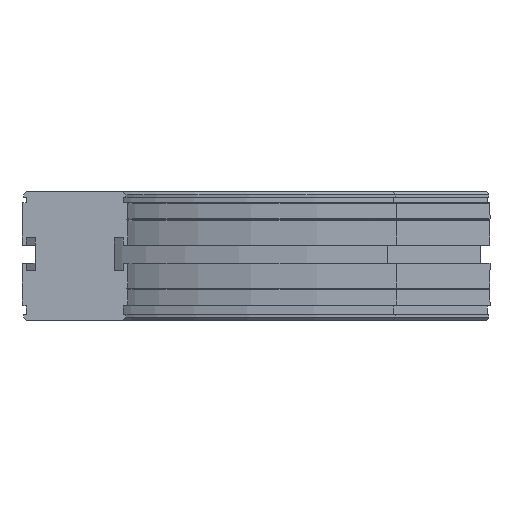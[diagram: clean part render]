
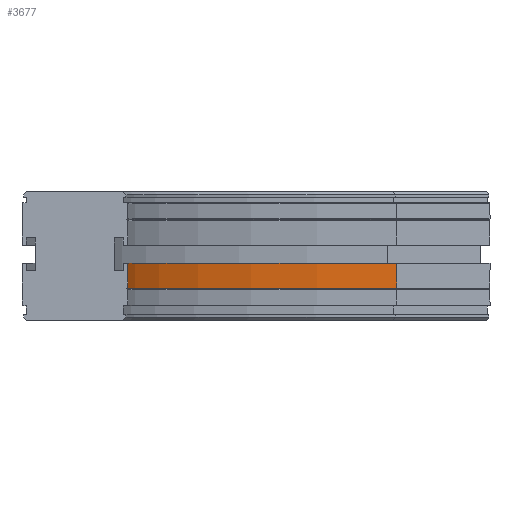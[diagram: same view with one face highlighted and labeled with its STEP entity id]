
A CAD part, left-side view. The second image highlights one B-rep face of the part: STEP entity #3677.
In plain terms, the highlighted cylindrical face has radius 557 mm (diameter 1114 mm), a partial arc.
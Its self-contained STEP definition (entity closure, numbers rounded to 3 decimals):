
#2334=CARTESIAN_POINT('',(473.858,-195.142,-58.5));
#2335=VERTEX_POINT('',#2334);
#2365=CARTESIAN_POINT('',(473.858,-195.142,-43.5));
#2366=VERTEX_POINT('',#2365);
#2373=CARTESIAN_POINT('',(473.858,-195.142,-58.5));
#2374=DIRECTION('',(0.0,0.0,1.0));
#2375=VECTOR('',#2374,15.);
#2376=LINE('',#2373,#2375);
#2377=EDGE_CURVE('',#2335,#2366,#2376,.T.);
#3634=CARTESIAN_POINT('',(80.0,-32.0,-58.5));
#3635=VERTEX_POINT('',#3634);
#3636=CARTESIAN_POINT('',(80.,-589.,-58.5));
#3637=DIRECTION('',(0.0,0.0,-1.));
#3638=DIRECTION('',(-0.707,-0.707,0.0));
#3639=AXIS2_PLACEMENT_3D('',#3636,#3637,#3638);
#3640=CIRCLE('',#3639,557.);
#3641=EDGE_CURVE('',#3635,#2335,#3640,.T.);
#3653=CARTESIAN_POINT('',(80.,-589.,-51.));
#3654=DIRECTION('',(0.0,0.0,-1.0));
#3655=DIRECTION('',(-0.707,-0.707,0.0));
#3656=AXIS2_PLACEMENT_3D('',#3653,#3654,#3655);
#3657=CYLINDRICAL_SURFACE('',#3656,557.);
#3658=ORIENTED_EDGE('',*,*,#2377,.T.);
#3659=CARTESIAN_POINT('',(80.0,-32.0,-43.5));
#3660=VERTEX_POINT('',#3659);
#3661=CARTESIAN_POINT('',(80.,-589.,-43.5));
#3662=DIRECTION('',(0.0,0.0,-1.));
#3663=DIRECTION('',(-0.707,-0.707,0.0));
#3664=AXIS2_PLACEMENT_3D('',#3661,#3662,#3663);
#3665=CIRCLE('',#3664,557.);
#3666=EDGE_CURVE('',#3660,#2366,#3665,.T.);
#3667=ORIENTED_EDGE('',*,*,#3666,.F.);
#3668=CARTESIAN_POINT('',(80.0,-32.0,-58.5));
#3669=DIRECTION('',(0.0,0.0,1.0));
#3670=VECTOR('',#3669,15.);
#3671=LINE('',#3668,#3670);
#3672=EDGE_CURVE('',#3635,#3660,#3671,.T.);
#3673=ORIENTED_EDGE('',*,*,#3672,.F.);
#3674=ORIENTED_EDGE('',*,*,#3641,.T.);
#3675=EDGE_LOOP('',(#3658,#3667,#3673,#3674));
#3676=FACE_OUTER_BOUND('',#3675,.T.);
#3677=ADVANCED_FACE('',(#3676),#3657,.F.);
